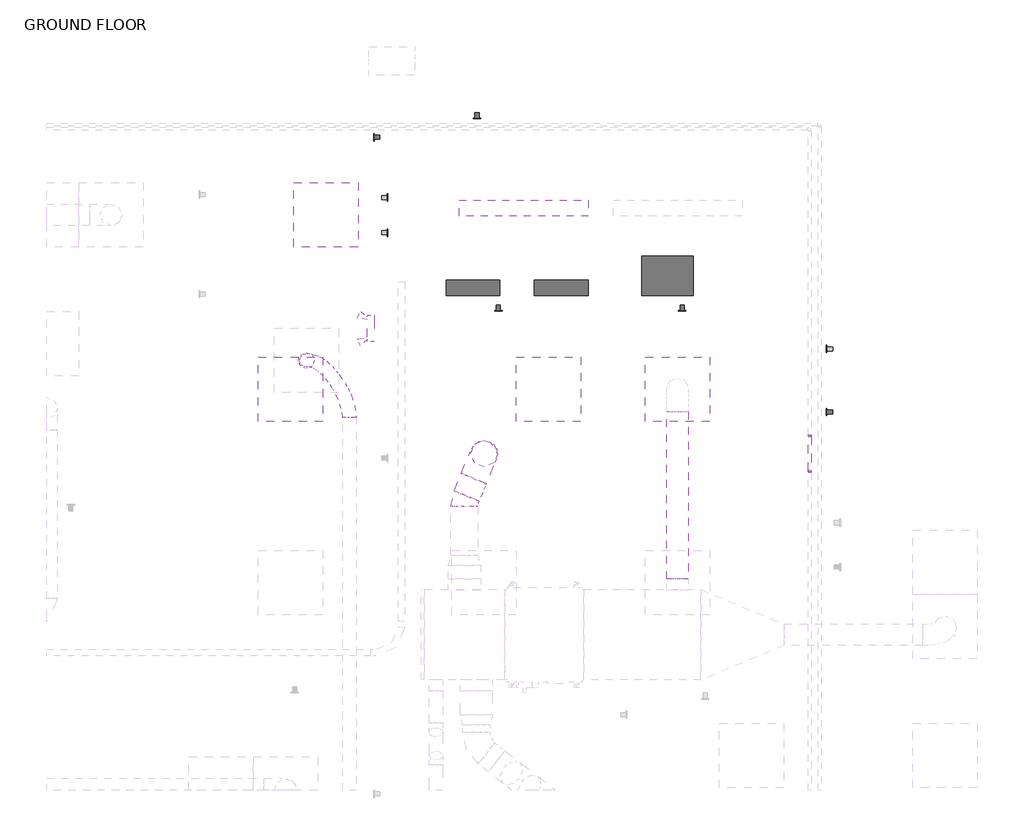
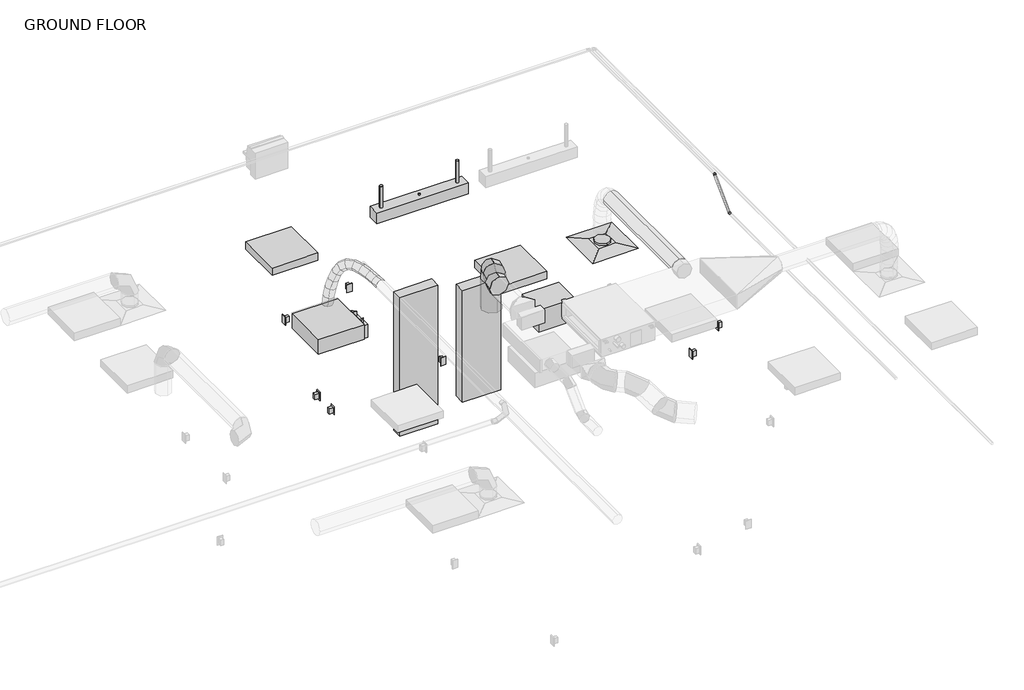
# One storey, part 21 of 22: 7 proxies, 5 light fixtures, 4 duct segments, 3 duct fittings, 2 electric appliances, 2 pipe fittings, 2 switching devices, 1 air terminal, 1 pipe segment.
"""IFC4 building model written with IfcOpenShell, lengths in millimetres."""

from ifc_helpers import new_model, si_unit, point, frame, frame_2d, origin, place, context, project, spatial, circle_curve, ellipse_curve, trimmed, segment, composite_curve, outline, extrude, transform, mapped, element, save
from ifc_brep_helpers import plane_surface, cylinder_surface, advanced_brep
from components import air_terminal_e9020785, proxy_15_kva_662d63cf, duplex_receptacle_countertop_10251bba, lighting_and_appliance_panelboard_208v_mcb_surface_400_a_1492eeec, lighting_and_appliance_panelboard_480v_mcb_surface_400_a_88b687c3, round_elbow_1_d_6fec3262, round_elbow_1_d_5b88d7e2, round_transition_angle_45_degree_fe5c3047, telephone_outlet_data_plain_18c24199, emergency_wall_light_120v_37438f40, suspended_fluorescent_strip_non_hosted_strip_light_1x4_120v_4ea4ccb3, troffer_corner_insert_2x2_3_lamp_emergency_29e3a813, troffer_corner_insert_2x2_3lamp_e67c7f8f, elbow_generic_standard_1964ee4a

model = new_model("IFC4")

# Units and contexts
model_context = context("Model", 3, world=origin())
ifc_project = project(units=[si_unit("LENGTHUNIT", "METRE", prefix="MILLI")], contexts=[model_context])

# Site, building, storey
site = spatial("IfcSite", under=ifc_project)
building = spatial("IfcBuilding", under=site)
storey = spatial("IfcBuildingStorey", under=building, Name="GROUND FLOOR", Elevation=30480.0)

# Air terminal
placement = place(None, origin())
air_terminal_shape = air_terminal_e9020785(model_context)
element("IfcAirTerminal", 1, ObjectType="Supply Diffuser - Rectangular Face Round Neck - Hosted : 24\"x24\" Face 8\" Neck - Hosted", at=placement, inside=storey, context=model_context, shape_type="MappedRepresentation", body=[
    mapped(air_terminal_shape, transform((12040.5545393, 5163.5445005, 33223.2), x_axis=(0.0, -1.0, 0.0), y_axis=(-1.0, 0.0, 0.0), z_axis=(0.0, 0.0, -1.0))),
])

# Proxies
proxy_15_kva_shape = proxy_15_kva_662d63cf(model_context)
element("IfcBuildingElementProxy", 2, Name="Dry Type Transformer - 480-208Y120 - NEMA Type 3R : 15 kVA", ObjectType="Dry Type Transformer - 480-208Y120 - NEMA Type 3R : 15 kVA", at=placement, inside=storey, context=model_context, shape_type="MappedRepresentation", body=[
    mapped(proxy_15_kva_shape, transform((11944.9930047, 6049.3695005, 31699.2), x_axis=(-1.0, 0.0, 0.0), y_axis=(0.0, 0.0, 1.0), z_axis=(0.0, 1.0, 0.0))),
])
duplex_receptacle_countertop_shape = duplex_receptacle_countertop_10251bba(model_context)
element("IfcBuildingElementProxy", 3, Name="Duplex Receptacle : Countertop", ObjectType="Duplex Receptacle : Countertop", at=placement, inside=storey, context=model_context, shape_type="MappedRepresentation", body=[
    mapped(duplex_receptacle_countertop_shape, transform((10347.0005995, 5906.4945005, 31699.2), x_axis=(1.0, 0.0, 0.0), y_axis=(0.0, 0.0, 1.0), z_axis=(0.0, -1.0, 0.0))),
])
element("IfcBuildingElementProxy", 4, Name="Duplex Receptacle : Countertop", ObjectType="Duplex Receptacle : Countertop", at=placement, inside=storey, context=model_context, shape_type="MappedRepresentation", body=[
    mapped(duplex_receptacle_countertop_shape, transform((12083.1234359, 5906.4945005, 31699.2), x_axis=(1.0, 0.0, 0.0), y_axis=(0.0, 0.0, 1.0), z_axis=(0.0, -1.0, 0.0))),
])
element("IfcBuildingElementProxy", 5, Name="Duplex Receptacle : Countertop", ObjectType="Duplex Receptacle : Countertop", at=placement, inside=storey, context=model_context, shape_type="MappedRepresentation", body=[
    mapped(duplex_receptacle_countertop_shape, transform((13450.2545393, 4948.4443724, 31699.2), x_axis=(0.0, -1.0, 0.0), y_axis=(0.0, 0.0, 1.0), z_axis=(-1.0, 0.0, 0.0))),
])
element("IfcBuildingElementProxy", 6, Name="Duplex Receptacle : Standard", ObjectType="Duplex Receptacle : Standard", at=placement, inside=storey, context=model_context, shape_type="MappedRepresentation", body=[
    mapped(duplex_receptacle_countertop_shape, transform((9297.3545393, 6976.0330864, 30937.2), x_axis=(0.0, 1.0, 0.0), y_axis=(0.0, 0.0, 1.0), z_axis=(1.0, 0.0, 0.0))),
])
lighting_and_appliance_panelboard_208v_mcb_surface_400_a_shape = lighting_and_appliance_panelboard_208v_mcb_surface_400_a_1492eeec(model_context)
element("IfcBuildingElementProxy", 7, Name="Lighting and Appliance Panelboard - 208V MCB - Surface : 400 A", ObjectType="Lighting and Appliance Panelboard - 208V MCB - Surface : 400 A", at=placement, inside=storey, context=model_context, shape_type="MappedRepresentation", body=[
    mapped(lighting_and_appliance_panelboard_208v_mcb_surface_400_a_shape, transform((10202.0902446, 6049.3695005, 31935.3056703), x_axis=(-1.0, 0.0, 0.0), y_axis=(0.0, 0.0, 1.0), z_axis=(0.0, 1.0, 0.0))),
])
lighting_and_appliance_panelboard_480v_mcb_surface_400_a_shape = lighting_and_appliance_panelboard_480v_mcb_surface_400_a_88b687c3(model_context)
element("IfcBuildingElementProxy", 8, Name="Lighting and Appliance Panelboard - 480V MCB - Surface : 400 A", ObjectType="Lighting and Appliance Panelboard - 480V MCB - Surface : 400 A", at=placement, inside=storey, context=model_context, shape_type="MappedRepresentation", body=[
    mapped(lighting_and_appliance_panelboard_480v_mcb_surface_400_a_shape, transform((11043.3905267, 6049.3695005, 32181.8), x_axis=(-1.0, 0.0, 0.0), y_axis=(0.0, 0.0, 1.0), z_axis=(0.0, 1.0, 0.0))),
])

# Duct fittings
round_elbow_1_d_shape = round_elbow_1_d_6fec3262(model_context)
element("IfcDuctFitting", 9, ObjectType="Round Elbow : 1 D", at=placement, inside=storey, context=model_context, shape_type="MappedRepresentation", body=[
    mapped(round_elbow_1_d_shape, transform((10211.7545393, 4553.9445005, 33992.34375), x_axis=(0.0, 0.0, 1.0), y_axis=(-0.3851088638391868, -0.9228711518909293, 0.0), z_axis=(0.9228711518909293, -0.3851088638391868, 0.0))),
])
round_elbow_1_d_2_shape = round_elbow_1_d_5b88d7e2(model_context)
element("IfcDuctFitting", 10, ObjectType="Round Elbow : 1 D", at=placement, inside=storey, context=model_context, shape_type="MappedRepresentation", body=[
    mapped(round_elbow_1_d_2_shape, transform((10025.6343566, 4107.927897, 33992.34375), x_axis=(-0.3851088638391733, -0.9228711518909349, 0.0), y_axis=(0.9228711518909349, -0.3851088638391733, 0.0), z_axis=(0.0, 0.0, 1.0))),
])
round_transition_angle_45_degree_shape = round_transition_angle_45_degree_fe5c3047(model_context)
element("IfcDuctFitting", 11, ObjectType="Round Transition - Angle : 45 Degree", at=placement, inside=storey, context=model_context, shape_type="MappedRepresentation", body=[
    mapped(round_transition_angle_45_degree_shape, transform((8532.1795393, 5435.0070005, 33277.175), x_axis=(0.0, 0.0, 1.0), y_axis=(-1.0, 0.0, 0.0), z_axis=(0.0, -1.0, 0.0))),
])

# Duct segments
element("IfcDuctSegment", 12, ObjectType="Flex - Round", at=placement, inside=storey, context=model_context, shape_type="AdvancedBrep", body=[
    advanced_brep(
    [(8875.0795393, 4896.3149962, 33877.25), (8938.5795393, 4896.3149962, 33813.75), (9002.0795393, 4896.3149962, 33877.25), (8938.5795393, 4896.3149962, 33940.75), (8875.0795393, 4900.8547311, 33877.25), (8938.5795393, 4910.0877861, 33813.75), (9002.0795393, 4909.5169222, 33877.25), (8938.5795393, 4900.2838673, 33940.75), (8498.0807082, 5381.4391023, 33307.8355122), (8478.6116411, 5469.1058316, 33307.8355122), (8566.2783703, 5488.5748987, 33307.8355122), (8585.7474375, 5400.9081695, 33307.8355122), (8863.8857275, 4982.0425527, 33889.9192219), (8924.7050592, 5010.7182805, 33829.453218), (8988.1741865, 5010.3713338, 33892.9881599), (8927.3548548, 4981.695606, 33953.4541638), (8833.8111138, 5071.1041338, 33919.2099071), (8889.698954, 5114.3837541, 33863.5468498), (8951.9191716, 5117.7352714, 33928.2981472), (8896.0313313, 5074.4556512, 33983.9612045), (8790.3755866, 5155.8451563, 33951.454483), (8843.3871918, 5204.7361993, 33897.9266129), (8901.2464031, 5216.59587, 33965.9153246), (8848.234798, 5167.704827, 34019.4431947), (8740.8976826, 5229.4503342, 33971.6182323), (8795.5614036, 5275.8836278, 33917.4170747), (8842.289142, 5304.3028933, 33989.9421998), (8787.6254209, 5257.8695997, 34044.1433574), (8692.9401256, 5286.2917627, 33966.2015223), (8756.497109, 5322.1843665, 33913.0048409), (8780.9199976, 5377.0403315, 33983.010678), (8717.3630142, 5341.1477278, 34036.2073593), (8648.8363887, 5327.176377, 33928.1852472), (8723.3182628, 5352.9414955, 33884.4055378), (8724.8233616, 5429.0424857, 33934.6568355), (8650.3414874, 5403.2773672, 33978.436545), (8607.4407626, 5355.753782, 33859.0017765), (8688.2568527, 5377.1460846, 33825.8082832), (8677.5734778, 5461.6613682, 33855.689291), (8596.7573877, 5440.2690657, 33888.8827843), (8570.661405, 5373.1745384, 33764.8754307), (8654.5815203, 5393.0966014, 33739.6258104), (8638.6693155, 5480.0885507, 33756.1251094), (8554.7492003, 5460.1664877, 33781.3747297), (8540.2848152, 5381.5183216, 33654.4016344), (8625.8982569, 5400.975265, 33635.3103157), (8607.7315024, 5488.5864897, 33643.6102521), (8522.1180606, 5469.1295464, 33662.7015708), (8517.4559318, 5383.612627, 33536.0689468), (8604.1400503, 5402.9713472, 33522.5274422), (8585.0222265, 5490.6698223, 33525.8975454), (8498.338108, 5471.3111021, 33539.43905), (8503.0715594, 5382.5248173, 33417.9387862), (8590.4843538, 5401.9386432, 33410.3814563), (8571.0518102, 5489.6133179, 33411.1669567), (8483.6390159, 5470.1994919, 33418.7242867), (8498.0807082, 5381.4391023, 33311.8810992), (8585.7474375, 5400.9081695, 33309.7199931), (8566.2783703, 5488.5748987, 33309.7293512), (8478.6116411, 5469.1058316, 33311.8904572)],
    [
        (0, 1, circle_curve(frame((8938.5795393, 4896.3149962, 33877.25), z_axis=(0.0, -1.0, 0.0), x_axis=(-1.0, 0.0, 0.0)), 63.5)),
        (1, 2, circle_curve(frame((8938.5795393, 4896.3149962, 33877.25), z_axis=(0.0, -1.0, 0.0), x_axis=(-1.0, 0.0, 0.0)), 63.5)),
        (2, 3, circle_curve(frame((8938.5795393, 4896.3149962, 33877.25), z_axis=(0.0, -1.0, 0.0), x_axis=(-1.0, 0.0, 0.0)), 63.5)),
        (3, 0, circle_curve(frame((8938.5795393, 4896.3149962, 33877.25), z_axis=(0.0, -1.0, 0.0), x_axis=(-1.0, 0.0, 0.0)), 63.5)),
        (0, 4),
        (4, 5, ellipse_curve(frame((8938.5795393, 4905.1858267, 33877.25), z_axis=(0.06784720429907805, -0.9947361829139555, -0.07678986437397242), x_axis=(-0.6586379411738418, -0.1024691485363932, 0.7454502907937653)), 63.8360211, 63.5)),
        (5, 1),
        (5, 6, ellipse_curve(frame((8938.5795393, 4905.1858267, 33877.25), z_axis=(0.06784720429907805, -0.9947361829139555, -0.07678986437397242), x_axis=(-0.6586379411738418, -0.1024691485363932, 0.7454502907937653)), 63.8360211, 63.5)),
        (6, 2),
        (6, 7, ellipse_curve(frame((8938.5795393, 4905.1858267, 33877.25), z_axis=(0.06784720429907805, -0.9947361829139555, -0.07678986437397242), x_axis=(-0.6586379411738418, -0.1024691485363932, 0.7454502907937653)), 63.8360211, 63.5)),
        (7, 3),
        (7, 4, ellipse_curve(frame((8938.5795393, 4905.1858267, 33877.25), z_axis=(0.06784720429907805, -0.9947361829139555, -0.07678986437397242), x_axis=(-0.6586379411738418, -0.1024691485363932, 0.7454502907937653)), 63.8360211, 63.5)),
        (8, 9, circle_curve(frame((8532.1795393, 5435.0070005, 33307.8355122), z_axis=(0.0, 0.0, -1.0), x_axis=(-0.5369894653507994, -0.8435889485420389, 0.0)), 63.5)),
        (9, 10, circle_curve(frame((8532.1795393, 5435.0070005, 33307.8355122), z_axis=(0.0, 0.0, -1.0), x_axis=(-0.5369894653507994, -0.8435889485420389, 0.0)), 63.5)),
        (10, 11, circle_curve(frame((8532.1795393, 5435.0070005, 33307.8355122), z_axis=(0.0, 0.0, -1.0), x_axis=(-0.5369894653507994, -0.8435889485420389, 0.0)), 63.5)),
        (11, 8, circle_curve(frame((8532.1795393, 5435.0070005, 33307.8355122), z_axis=(0.0, 0.0, -1.0), x_axis=(-0.5369894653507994, -0.8435889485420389, 0.0)), 63.5)),
        (4, 12),
        (12, 13, ellipse_curve(frame((8926.029957, 4996.2069433, 33891.4536909), z_axis=(0.22176007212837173, -0.9483804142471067, -0.22670919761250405), x_axis=(-0.7233012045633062, -0.31591314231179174, 0.6140311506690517)), 63.9455449, 63.5)),
        (13, 5),
        (13, 14, ellipse_curve(frame((8926.029957, 4996.2069433, 33891.4536909), z_axis=(0.22176007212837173, -0.9483804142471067, -0.22670919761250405), x_axis=(-0.7233012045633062, -0.31591314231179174, 0.6140311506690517)), 63.9455449, 63.5)),
        (14, 6),
        (14, 15, ellipse_curve(frame((8926.029957, 4996.2069433, 33891.4536909), z_axis=(0.22176007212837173, -0.9483804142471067, -0.22670919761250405), x_axis=(-0.7233012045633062, -0.31591314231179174, 0.6140311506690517)), 63.9455449, 63.5)),
        (15, 7),
        (15, 12, ellipse_curve(frame((8926.029957, 4996.2069433, 33891.4536909), z_axis=(0.22176007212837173, -0.9483804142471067, -0.22670919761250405), x_axis=(-0.7233012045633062, -0.31591314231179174, 0.6140311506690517)), 63.9455449, 63.5)),
        (12, 16),
        (16, 17, ellipse_curve(frame((8892.8651427, 5094.4197026, 33923.7540271), z_axis=(0.36968793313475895, -0.8759532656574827, -0.30989790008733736), x_axis=(-0.8870554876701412, -0.43198690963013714, 0.1628492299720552)), 63.6622762, 63.5)),
        (17, 13),
        (17, 18, ellipse_curve(frame((8892.8651427, 5094.4197026, 33923.7540271), z_axis=(0.36968793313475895, -0.8759532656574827, -0.30989790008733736), x_axis=(-0.8870554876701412, -0.43198690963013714, 0.1628492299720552)), 63.6622762, 63.5)),
        (18, 14),
        (18, 19, ellipse_curve(frame((8892.8651427, 5094.4197026, 33923.7540271), z_axis=(0.36968793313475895, -0.8759532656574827, -0.30989790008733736), x_axis=(-0.8870554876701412, -0.43198690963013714, 0.1628492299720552)), 63.6622762, 63.5)),
        (19, 15),
        (19, 16, ellipse_curve(frame((8892.8651427, 5094.4197026, 33923.7540271), z_axis=(0.36968793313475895, -0.8759532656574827, -0.30989790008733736), x_axis=(-0.8870554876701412, -0.43198690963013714, 0.1628492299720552)), 63.6622762, 63.5)),
        (16, 20),
        (20, 21, ellipse_curve(frame((8845.8109949, 5186.2205132, 33958.6849038), z_axis=(0.4894574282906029, -0.8285176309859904, -0.272010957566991), x_axis=(-0.7307496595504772, -0.21947974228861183, -0.6464004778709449)), 63.6871348, 63.5)),
        (21, 17),
        (21, 22, ellipse_curve(frame((8845.8109949, 5186.2205132, 33958.6849038), z_axis=(0.4894574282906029, -0.8285176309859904, -0.272010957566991), x_axis=(-0.7307496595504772, -0.21947974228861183, -0.6464004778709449)), 63.6871348, 63.5)),
        (22, 18),
        (22, 23, ellipse_curve(frame((8845.8109949, 5186.2205132, 33958.6849038), z_axis=(0.4894574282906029, -0.8285176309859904, -0.272010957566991), x_axis=(-0.7307496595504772, -0.21947974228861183, -0.6464004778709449)), 63.6871348, 63.5)),
        (23, 19),
        (23, 20, ellipse_curve(frame((8845.8109949, 5186.2205132, 33958.6849038), z_axis=(0.4894574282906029, -0.8285176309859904, -0.272010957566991), x_axis=(-0.7307496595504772, -0.21947974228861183, -0.6464004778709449)), 63.6871348, 63.5)),
        (20, 24),
        (24, 25, ellipse_curve(frame((8791.5934123, 5266.8766137, 33980.780216), z_axis=(0.6010322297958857, -0.7956541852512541, -0.07546307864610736), x_axis=(-0.31564562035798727, -0.1495663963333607, -0.9370153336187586)), 64.2980116, 63.5)),
        (25, 21),
        (25, 26, ellipse_curve(frame((8791.5934123, 5266.8766137, 33980.780216), z_axis=(0.6010322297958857, -0.7956541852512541, -0.07546307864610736), x_axis=(-0.31564562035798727, -0.1495663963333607, -0.9370153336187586)), 64.2980116, 63.5)),
        (26, 22),
        (26, 27, ellipse_curve(frame((8791.5934123, 5266.8766137, 33980.780216), z_axis=(0.6010322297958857, -0.7956541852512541, -0.07546307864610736), x_axis=(-0.31564562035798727, -0.1495663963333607, -0.9370153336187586)), 64.2980116, 63.5)),
        (27, 23),
        (27, 24, ellipse_curve(frame((8791.5934123, 5266.8766137, 33980.780216), z_axis=(0.6010322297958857, -0.7956541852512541, -0.07546307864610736), x_axis=(-0.31564562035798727, -0.1495663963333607, -0.9370153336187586)), 64.2980116, 63.5)),
        (24, 28),
        (28, 29, ellipse_curve(frame((8736.9300616, 5331.6660471, 33974.6061001), z_axis=(0.6521372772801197, -0.6902902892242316, 0.3133947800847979), x_axis=(0.04661097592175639, -0.37610301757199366, -0.9254047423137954)), 65.5729657, 63.5)),
        (29, 25),
        (29, 30, ellipse_curve(frame((8736.9300616, 5331.6660471, 33974.6061001), z_axis=(0.6521372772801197, -0.6902902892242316, 0.3133947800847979), x_axis=(0.04661097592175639, -0.37610301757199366, -0.9254047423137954)), 65.5729657, 63.5)),
        (30, 26),
        (30, 31, ellipse_curve(frame((8736.9300616, 5331.6660471, 33974.6061001), z_axis=(0.6521372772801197, -0.6902902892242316, 0.3133947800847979), x_axis=(0.04661097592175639, -0.37610301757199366, -0.9254047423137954)), 65.5729657, 63.5)),
        (31, 27),
        (31, 28, ellipse_curve(frame((8736.9300616, 5331.6660471, 33974.6061001), z_axis=(0.6521372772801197, -0.6902902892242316, 0.3133947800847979), x_axis=(0.04661097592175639, -0.37610301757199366, -0.9254047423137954)), 65.5729657, 63.5)),
        (28, 32),
        (32, 33, ellipse_curve(frame((8686.8298751, 5378.1094314, 33931.4210414), z_axis=(0.562693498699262, -0.46323884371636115, 0.6846793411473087), x_axis=(0.3490527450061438, -0.6176477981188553, -0.7047505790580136)), 64.739373, 63.5)),
        (33, 29),
        (33, 34, ellipse_curve(frame((8686.8298751, 5378.1094314, 33931.4210414), z_axis=(0.562693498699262, -0.46323884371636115, 0.6846793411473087), x_axis=(0.3490527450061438, -0.6176477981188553, -0.7047505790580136)), 64.739373, 63.5)),
        (34, 30),
        (34, 35, ellipse_curve(frame((8686.8298751, 5378.1094314, 33931.4210414), z_axis=(0.562693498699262, -0.46323884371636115, 0.6846793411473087), x_axis=(0.3490527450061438, -0.6176477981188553, -0.7047505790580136)), 64.739373, 63.5)),
        (35, 31),
        (35, 32, ellipse_curve(frame((8686.8298751, 5378.1094314, 33931.4210414), z_axis=(0.562693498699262, -0.46323884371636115, 0.6846793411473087), x_axis=(0.3490527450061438, -0.6176477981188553, -0.7047505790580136)), 64.739373, 63.5)),
        (32, 36),
        (36, 37, ellipse_curve(frame((8642.5071202, 5408.7075751, 33857.3455337), z_axis=(0.42420587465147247, -0.2537229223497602, 0.869295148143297), x_axis=(0.5363938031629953, -0.7030237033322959, -0.4669468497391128)), 63.9375529, 63.5)),
        (37, 33),
        (37, 38, ellipse_curve(frame((8642.5071202, 5408.7075751, 33857.3455337), z_axis=(0.42420587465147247, -0.2537229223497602, 0.869295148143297), x_axis=(0.5363938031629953, -0.7030237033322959, -0.4669468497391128)), 63.9375529, 63.5)),
        (38, 34),
        (38, 39, ellipse_curve(frame((8642.5071202, 5408.7075751, 33857.3455337), z_axis=(0.42420587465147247, -0.2537229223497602, 0.869295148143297), x_axis=(0.5363938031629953, -0.7030237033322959, -0.4669468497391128)), 63.9375529, 63.5)),
        (39, 35),
        (39, 36, ellipse_curve(frame((8642.5071202, 5408.7075751, 33857.3455337), z_axis=(0.42420587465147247, -0.2537229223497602, 0.869295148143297), x_axis=(0.5363938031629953, -0.7030237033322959, -0.4669468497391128)), 63.9375529, 63.5)),
        (36, 40),
        (40, 41, ellipse_curve(frame((8604.6653603, 5426.6315445, 33760.5002701), z_axis=(0.31233337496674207, -0.12156419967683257, 0.9421624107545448), x_axis=(0.662124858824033, -0.6833243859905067, -0.3076661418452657)), 63.6613778, 63.5)),
        (41, 37),
        (41, 42, ellipse_curve(frame((8604.6653603, 5426.6315445, 33760.5002701), z_axis=(0.31233337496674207, -0.12156419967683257, 0.9421624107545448), x_axis=(0.662124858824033, -0.6833243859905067, -0.3076661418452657)), 63.6613778, 63.5)),
        (42, 38),
        (42, 43, ellipse_curve(frame((8604.6653603, 5426.6315445, 33760.5002701), z_axis=(0.31233337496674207, -0.12156419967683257, 0.9421624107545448), x_axis=(0.662124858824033, -0.6833243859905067, -0.3076661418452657)), 63.6613778, 63.5)),
        (43, 39),
        (43, 40, ellipse_curve(frame((8604.6653603, 5426.6315445, 33760.5002701), z_axis=(0.31233337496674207, -0.12156419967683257, 0.9421624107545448), x_axis=(0.662124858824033, -0.6833243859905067, -0.3076661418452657)), 63.6613778, 63.5)),
        (40, 44),
        (44, 45, ellipse_curve(frame((8574.0081588, 5435.0524057, 33649.0059432), z_axis=(0.22717106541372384, -0.04505492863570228, 0.9728120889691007), x_axis=(0.7871206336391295, -0.5797108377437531, -0.21065719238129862)), 63.5722389, 63.5)),
        (45, 41),
        (45, 46, ellipse_curve(frame((8574.0081588, 5435.0524057, 33649.0059432), z_axis=(0.22717106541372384, -0.04505492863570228, 0.9728120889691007), x_axis=(0.7871206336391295, -0.5797108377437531, -0.21065719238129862)), 63.5722389, 63.5)),
        (46, 42),
        (46, 47, ellipse_curve(frame((8574.0081588, 5435.0524057, 33649.0059432), z_axis=(0.22717106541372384, -0.04505492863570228, 0.9728120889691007), x_axis=(0.7871206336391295, -0.5797108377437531, -0.21065719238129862)), 63.5722389, 63.5)),
        (47, 43),
        (47, 44, ellipse_curve(frame((8574.0081588, 5435.0524057, 33649.0059432), z_axis=(0.22717106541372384, -0.04505492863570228, 0.9728120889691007), x_axis=(0.7871206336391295, -0.5797108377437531, -0.21065719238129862)), 63.5722389, 63.5)),
        (44, 48),
        (48, 49, ellipse_curve(frame((8551.2390791, 5437.1412247, 33530.9832461), z_axis=(0.15524158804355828, -0.004120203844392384, 0.9878679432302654), x_axis=(0.9225643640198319, -0.356962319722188, -0.14646807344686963)), 63.5438436, 63.5)),
        (49, 45),
        (49, 50, ellipse_curve(frame((8551.2390791, 5437.1412247, 33530.9832461), z_axis=(0.15524158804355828, -0.004120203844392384, 0.9878679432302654), x_axis=(0.9225643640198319, -0.356962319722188, -0.14646807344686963)), 63.5438436, 63.5)),
        (50, 46),
        (50, 51, ellipse_curve(frame((8551.2390791, 5437.1412247, 33530.9832461), z_axis=(0.15524158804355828, -0.004120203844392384, 0.9878679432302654), x_axis=(0.9225643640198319, -0.356962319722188, -0.14646807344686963)), 63.5438436, 63.5)),
        (51, 47),
        (51, 48, ellipse_curve(frame((8551.2390791, 5437.1412247, 33530.9832461), z_axis=(0.15524158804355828, -0.004120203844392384, 0.9878679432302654), x_axis=(0.9225643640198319, -0.356962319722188, -0.14646807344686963)), 63.5438436, 63.5)),
        (48, 52),
        (52, 53, ellipse_curve(frame((8537.0616848, 5436.0690676, 33414.5528715), z_axis=(0.08399407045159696, 0.009689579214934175, 0.9964191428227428), x_axis=(0.9963711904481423, -0.014628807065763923, -0.0838477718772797)), 63.5436694, 63.5)),
        (53, 49),
        (53, 54, ellipse_curve(frame((8537.0616848, 5436.0690676, 33414.5528715), z_axis=(0.08399407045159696, 0.009689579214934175, 0.9964191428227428), x_axis=(0.9963711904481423, -0.014628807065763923, -0.0838477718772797)), 63.5436694, 63.5)),
        (54, 50),
        (54, 55, ellipse_curve(frame((8537.0616848, 5436.0690676, 33414.5528715), z_axis=(0.08399407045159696, 0.009689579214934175, 0.9964191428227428), x_axis=(0.9963711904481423, -0.014628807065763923, -0.0838477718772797)), 63.5436694, 63.5)),
        (55, 51),
        (55, 52, ellipse_curve(frame((8537.0616848, 5436.0690676, 33414.5528715), z_axis=(0.08399407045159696, 0.009689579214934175, 0.9964191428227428), x_axis=(0.9963711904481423, -0.014628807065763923, -0.0838477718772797)), 63.5436694, 63.5)),
        (52, 56),
        (56, 57, ellipse_curve(frame((8532.1795393, 5435.0070005, 33310.8052252), z_axis=(0.02350851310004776, 0.005114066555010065, 0.9997105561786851), x_axis=(0.9768631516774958, 0.21250783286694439, -0.024058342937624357)), 63.518385, 63.5)),
        (57, 53),
        (57, 58, ellipse_curve(frame((8532.1795393, 5435.0070005, 33310.8052252), z_axis=(0.02350851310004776, 0.005114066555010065, 0.9997105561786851), x_axis=(0.9768631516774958, 0.21250783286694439, -0.024058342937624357)), 63.518385, 63.5)),
        (58, 54),
        (58, 59, ellipse_curve(frame((8532.1795393, 5435.0070005, 33310.8052252), z_axis=(0.02350851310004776, 0.005114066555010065, 0.9997105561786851), x_axis=(0.9768631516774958, 0.21250783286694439, -0.024058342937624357)), 63.518385, 63.5)),
        (59, 55),
        (59, 56, ellipse_curve(frame((8532.1795393, 5435.0070005, 33310.8052252), z_axis=(0.02350851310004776, 0.005114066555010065, 0.9997105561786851), x_axis=(0.9768631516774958, 0.21250783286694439, -0.024058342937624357)), 63.518385, 63.5)),
        (56, 8),
        (11, 57),
        (10, 58),
        (9, 59),
    ],
    [
        plane_surface(frame((8875.0795393, 4896.3149962, 33877.25), z_axis=(0.0, -1.0, 0.0), x_axis=(0.0, 0.0, 1.0))),
        cylinder_surface(frame((8938.5795393, 4896.3149962, 33877.25), z_axis=(0.0, -1.0, 0.0), x_axis=(-1.0, 0.0, 0.0)), 63.5),
        plane_surface(frame((8532.1795393, 5371.5070005, 33307.8355122), z_axis=(0.0, 0.0, -1.0), x_axis=(-1.0, 0.0, 0.0))),
        cylinder_surface(frame((8938.5795393, 4905.1858267, 33877.25), z_axis=(0.1349801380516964, -0.9790001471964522, -0.1527713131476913), x_axis=(-0.9907935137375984, -0.1349801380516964, -0.010419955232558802)), 63.5),
        cylinder_surface(frame((8926.029957, 4996.2069433, 33891.4536909), z_axis=(0.30544974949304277, -0.9045448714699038, -0.2974878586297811), x_axis=(-0.9511678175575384, -0.304443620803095, -0.05092999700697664)), 63.5),
        cylinder_surface(frame((8892.8651427, 5094.4197026, 33923.7540271), z_axis=(0.4320414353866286, -0.8428960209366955, -0.3207280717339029), x_axis=(-0.9000223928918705, -0.4256296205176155, -0.09380361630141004)), 63.5),
        cylinder_surface(frame((8845.8109949, 5186.2205132, 33958.6849038), z_axis=(0.543997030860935, -0.8092702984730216, -0.22169531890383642), x_axis=(-0.8389719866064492, -0.5289712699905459, -0.1277317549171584)), 63.5),
        cylinder_surface(frame((8791.5934123, 5266.8766137, 33980.780216), z_axis=(0.6431484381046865, -0.7622881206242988, 0.07264232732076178), x_axis=(-0.7503414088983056, -0.6463015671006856, -0.13885983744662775)), 63.5),
        cylinder_surface(frame((8736.9300616, 5331.6660471, 33974.6061001), z_axis=(0.6198939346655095, -0.5746480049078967, 0.5343324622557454), x_axis=(-0.6372505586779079, -0.7660087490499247, -0.08451225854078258)), 63.5),
        cylinder_surface(frame((8686.8298751, 5378.1094314, 33931.4210414), z_axis=(0.4839486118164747, -0.33409315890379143, 0.808811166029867), x_axis=(-0.5679317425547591, -0.8230756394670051, -0.0001658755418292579)), 63.5),
        cylinder_surface(frame((8642.5071202, 5408.7075751, 33857.3455337), z_axis=(0.3586570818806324, -0.16988001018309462, 0.9178811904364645), x_axis=(-0.540586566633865, -0.8394311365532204, 0.055870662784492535)), 63.5),
        cylinder_surface(frame((8604.6653603, 5426.6315445, 33760.5002701), z_axis=(0.26442617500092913, -0.07263207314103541, 0.961666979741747), x_axis=(-0.531741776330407, -0.8428736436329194, 0.08255122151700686)), 63.5),
        cylinder_surface(frame((8574.0081588, 5435.0524057, 33649.0059432), z_axis=(0.18939967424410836, -0.017375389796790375, 0.9817463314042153), x_axis=(-0.5305996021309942, -0.8431001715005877, 0.08744234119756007)), 63.5),
        cylinder_surface(frame((8551.2390791, 5437.1412247, 33530.9832461), z_axis=(0.12086927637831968, 0.009140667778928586, 0.9926263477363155), x_axis=(-0.532923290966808, -0.8430384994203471, 0.07265572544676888)), 63.5),
        cylinder_surface(frame((8537.0616848, 5436.0690676, 33414.5528715), z_axis=(0.04700341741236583, 0.010225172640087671, 0.9988423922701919), x_axis=(-0.5361930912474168, -0.8434157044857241, 0.03386618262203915)), 63.5),
        cylinder_surface(frame((8532.1795393, 5435.0070005, 33310.8052252), z_axis=(0.0, 0.0, 1.0000000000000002), x_axis=(-0.5369894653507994, -0.8435889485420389, 0.0)), 63.5),
    ],
    [
        (0, [[1, 2, 3, 4]]),
        (1, [[-1, 5, 6, 7]]),
        (1, [[-2, -7, 8, 9]]),
        (1, [[-3, -9, 10, 11]]),
        (1, [[-4, -11, 12, -5]]),
        (2, [[13, 14, 15, 16]]),
        (3, [[-6, 17, 18, 19]]),
        (3, [[-8, -19, 20, 21]]),
        (3, [[-10, -21, 22, 23]]),
        (3, [[-12, -23, 24, -17]]),
        (4, [[-18, 25, 26, 27]]),
        (4, [[-20, -27, 28, 29]]),
        (4, [[-22, -29, 30, 31]]),
        (4, [[-24, -31, 32, -25]]),
        (5, [[-26, 33, 34, 35]]),
        (5, [[-28, -35, 36, 37]]),
        (5, [[-30, -37, 38, 39]]),
        (5, [[-32, -39, 40, -33]]),
        (6, [[-34, 41, 42, 43]]),
        (6, [[-36, -43, 44, 45]]),
        (6, [[-38, -45, 46, 47]]),
        (6, [[-40, -47, 48, -41]]),
        (7, [[-42, 49, 50, 51]]),
        (7, [[-44, -51, 52, 53]]),
        (7, [[-46, -53, 54, 55]]),
        (7, [[-48, -55, 56, -49]]),
        (8, [[-50, 57, 58, 59]]),
        (8, [[-52, -59, 60, 61]]),
        (8, [[-54, -61, 62, 63]]),
        (8, [[-56, -63, 64, -57]]),
        (9, [[-58, 65, 66, 67]]),
        (9, [[-60, -67, 68, 69]]),
        (9, [[-62, -69, 70, 71]]),
        (9, [[-64, -71, 72, -65]]),
        (10, [[-66, 73, 74, 75]]),
        (10, [[-68, -75, 76, 77]]),
        (10, [[-70, -77, 78, 79]]),
        (10, [[-72, -79, 80, -73]]),
        (11, [[-74, 81, 82, 83]]),
        (11, [[-76, -83, 84, 85]]),
        (11, [[-78, -85, 86, 87]]),
        (11, [[-80, -87, 88, -81]]),
        (12, [[-82, 89, 90, 91]]),
        (12, [[-84, -91, 92, 93]]),
        (12, [[-86, -93, 94, 95]]),
        (12, [[-88, -95, 96, -89]]),
        (13, [[-90, 97, 98, 99]]),
        (13, [[-92, -99, 100, 101]]),
        (13, [[-94, -101, 102, 103]]),
        (13, [[-96, -103, 104, -97]]),
        (14, [[-98, 105, 106, 107]]),
        (14, [[-100, -107, 108, 109]]),
        (14, [[-102, -109, 110, 111]]),
        (14, [[-104, -111, 112, -105]]),
        (15, [[-106, 113, -16, 114]]),
        (15, [[-108, -114, -15, 115]]),
        (15, [[-110, -115, -14, 116]]),
        (15, [[-112, -116, -13, -113]]),
    ],
),
])
element("IfcDuctSegment", 13, ObjectType="Taps / Short Radius", at=placement, inside=storey, context=model_context, shape_type="SweptSolid", body=[
    extrude(outline(composite_curve([segment(trimmed(circle_curve(frame_2d((0.0, -127.0)), 127.0), [point((-127.0, -127.0))], [point((0.0, 0.0))], False, "CARTESIAN"), True, "CONTINUOUS"), segment(trimmed(circle_curve(frame_2d((0.0, -127.0)), 127.0), [point((0.0, 0.0))], [point((127.0, -127.0))], False, "CARTESIAN"), True, "CONTINUOUS"), segment(trimmed(circle_curve(frame_2d((0.0, -127.0)), 127.0), [point((127.0, -127.0))], [point((0.0, -254.0))], False, "CARTESIAN"), True, "CONTINUOUS"), segment(trimmed(circle_curve(frame_2d((0.0, -127.0)), 127.0), [point((0.0, -254.0))], [point((-127.0, -127.0))], False, "CARTESIAN"), True, "CONTINUOUS")], self_intersect=False)), frame((10045.225084, 4154.8749265, 33865.34375), z_axis=(0.3851088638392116, 0.922871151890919, 0.0), x_axis=(0.922871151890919, -0.3851088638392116, 0.0)), (0.0, 0.0, 1.0), 178.4217668),
])
element("IfcDuctSegment", 14, ObjectType="Taps / Short Radius", at=placement, inside=storey, context=model_context, shape_type="SweptSolid", body=[
    extrude(outline(composite_curve([segment(trimmed(circle_curve(frame_2d((10211.7545393, 4553.9445005)), 127.0), [point((10084.7545393, 4553.9445005))], [point((10211.7545393, 4680.9445005))], False, "CARTESIAN"), True, "CONTINUOUS"), segment(trimmed(circle_curve(frame_2d((10211.7545393, 4553.9445005)), 127.0), [point((10211.7545393, 4680.9445005))], [point((10338.7545393, 4553.9445005))], False, "CARTESIAN"), True, "CONTINUOUS"), segment(trimmed(circle_curve(frame_2d((10211.7545393, 4553.9445005)), 127.0), [point((10338.7545393, 4553.9445005))], [point((10211.7545393, 4426.9445005))], False, "CARTESIAN"), True, "CONTINUOUS"), segment(trimmed(circle_curve(frame_2d((10211.7545393, 4553.9445005)), 127.0), [point((10211.7545393, 4426.9445005))], [point((10084.7545393, 4553.9445005))], False, "CARTESIAN"), True, "CONTINUOUS")], self_intersect=False)), frame((0.0, 0.0, 33324.8), z_axis=(0.0, 0.0, 1.0), x_axis=(1.0, 0.0, 0.0)), (0.0, 0.0, 1.0), 413.54375),
])
element("IfcDuctSegment", 15, ObjectType="Taps / Short Radius", at=placement, inside=storey, context=model_context, shape_type="SweptSolid", body=[
    extrude(outline(composite_curve([segment(trimmed(circle_curve(frame_2d((33978.85, 12040.5545393)), 101.6), [point((33978.85, 12142.1545393))], [point((34080.45, 12040.5545393))], False, "CARTESIAN"), True, "CONTINUOUS"), segment(trimmed(circle_curve(frame_2d((33978.85, 12040.5545393)), 101.6), [point((34080.45, 12040.5545393))], [point((33978.85, 11938.9545393))], False, "CARTESIAN"), True, "CONTINUOUS"), segment(trimmed(circle_curve(frame_2d((33978.85, 12040.5545393)), 101.6), [point((33978.85, 11938.9545393))], [point((33877.25, 12040.5545393))], False, "CARTESIAN"), True, "CONTINUOUS"), segment(trimmed(circle_curve(frame_2d((33978.85, 12040.5545393)), 101.6), [point((33877.25, 12040.5545393))], [point((33978.85, 12142.1545393))], False, "CARTESIAN"), True, "CONTINUOUS")], self_intersect=False)), frame((0.0, 3371.327897, 0.0), z_axis=(0.0, 1.0, 0.0), x_axis=(0.0, 0.0, 1.0)), (0.0, 0.0, 1.0), 1579.4916035),
])

# Electric appliances
telephone_outlet_data_plain_shape = telephone_outlet_data_plain_18c24199(model_context)
element("IfcElectricAppliance", 16, ObjectType="Telephone Outlet - Data : Plain", at=placement, inside=storey, context=model_context, shape_type="MappedRepresentation", body=[
    mapped(telephone_outlet_data_plain_shape, transform((13450.2545393, 4664.9254199, 30079.95), x_axis=(0.0, -1.0, 0.0), y_axis=(0.0, 0.0, 1.0), z_axis=(-1.0, 0.0, 0.0))),
])
element("IfcElectricAppliance", 17, ObjectType="Telephone Outlet - Data : Plain", at=placement, inside=storey, context=model_context, shape_type="MappedRepresentation", body=[
    mapped(telephone_outlet_data_plain_shape, transform((9297.3545393, 7522.4284863, 30079.95), x_axis=(0.0, 1.0, 0.0), y_axis=(0.0, 0.0, 1.0), z_axis=(1.0, 0.0, 0.0))),
])

# Light fixtures
emergency_wall_light_120v_shape = emergency_wall_light_120v_37438f40(model_context)
element("IfcLightFixture", 18, ObjectType="Emergency Wall Light : 120V", at=placement, inside=storey, context=model_context, shape_type="MappedRepresentation", body=[
    mapped(emergency_wall_light_120v_shape, transform((9173.5295393, 5739.0146039, 32715.2), x_axis=(0.0, -1.0, 0.0), y_axis=(0.0, 0.0, 1.0), z_axis=(-1.0, 0.0, 0.0))),
])
suspended_fluorescent_strip_non_hosted_strip_light_1x4_120v_shape = suspended_fluorescent_strip_non_hosted_strip_light_1x4_120v_4ea4ccb3(model_context)
element("IfcLightFixture", 19, ObjectType="Suspended Fluorescent Strip - Non-Hosted : Strip Light 1x4 - 120V Normal", at=placement, inside=storey, context=model_context, shape_type="MappedRepresentation", body=[
    mapped(suspended_fluorescent_strip_non_hosted_strip_light_1x4_120v_shape, transform((10586.0110218, 6874.6802316, 33223.2), x_axis=(1.0, 0.0, 0.0), y_axis=(0.0, 1.0, 0.0), z_axis=(0.0, 0.0, 1.0))),
])
troffer_corner_insert_2x2_3_lamp_emergency_shape = troffer_corner_insert_2x2_3_lamp_emergency_29e3a813(model_context)
element("IfcLightFixture", 20, ObjectType="Troffer Corner Insert : 2x2 3 Lamp Emergency", at=placement, inside=storey, context=model_context, shape_type="MappedRepresentation", body=[
    mapped(troffer_corner_insert_2x2_3_lamp_emergency_shape, transform((8382.9545393, 5163.5445005, 30784.8), x_axis=(1.0, 0.0, 0.0), y_axis=(0.0, 1.0, 0.0), z_axis=(0.0, 0.0, 1.0))),
])
troffer_corner_insert_2x2_3lamp_shape = troffer_corner_insert_2x2_3lamp_e67c7f8f(model_context)
element("IfcLightFixture", 21, ObjectType="Troffer Corner Insert : 2x2 3Lamp", at=placement, inside=storey, context=model_context, shape_type="MappedRepresentation", body=[
    mapped(troffer_corner_insert_2x2_3lamp_shape, transform((10821.3545393, 5163.5445005, 30784.8), x_axis=(1.0, 0.0, 0.0), y_axis=(0.0, 1.0, 0.0), z_axis=(0.0, 0.0, 1.0))),
])
element("IfcLightFixture", 22, ObjectType="Troffer Corner Insert : 2x2 3Lamp", at=placement, inside=storey, context=model_context, shape_type="MappedRepresentation", body=[
    mapped(troffer_corner_insert_2x2_3lamp_shape, transform((8716.3295393, 6811.3695005, 30784.8), x_axis=(1.0, 0.0, 0.0), y_axis=(0.0, 1.0, 0.0), z_axis=(0.0, 0.0, 1.0))),
])

# Pipe fittings
elbow_generic_standard_shape = elbow_generic_standard_1964ee4a(model_context)
element("IfcPipeFitting", 23, ObjectType="Elbow - Generic : Standard", at=placement, inside=storey, context=model_context, shape_type="MappedRepresentation", body=[
    mapped(elbow_generic_standard_shape, transform((13289.5512041, 4726.2310161, 34023.2999997), x_axis=(0.0, -1.0, 0.0), y_axis=(0.0, 0.0, -1.0), z_axis=(1.0, 0.0, 0.0))),
])
element("IfcPipeFitting", 24, ObjectType="Elbow - Generic : Standard", at=placement, inside=storey, context=model_context, shape_type="MappedRepresentation", body=[
    mapped(elbow_generic_standard_shape, transform((13289.5512041, 4383.3310166, 33680.4), x_axis=(0.0, -0.7071067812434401, -0.7071067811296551), y_axis=(0.0, -0.7071067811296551, 0.7071067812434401), z_axis=(-1.0, 0.0, 0.0))),
])

# Pipe segment
element("IfcPipeSegment", 25, ObjectType="Copper Tubing", at=placement, inside=storey, context=model_context, shape_type="SweptSolid", body=[
    extrude(outline(composite_curve([segment(trimmed(circle_curve(frame_2d((0.0, -14.2875)), 14.2875), [point((-14.2875, -14.2875))], [point((0.0, 0.0))], False, "CARTESIAN"), True, "CONTINUOUS"), segment(trimmed(circle_curve(frame_2d((0.0, -14.2875)), 14.2875), [point((0.0, 0.0))], [point((14.2875, -14.2875))], False, "CARTESIAN"), True, "CONTINUOUS"), segment(trimmed(circle_curve(frame_2d((0.0, -14.2875)), 14.2875), [point((14.2875, -14.2875))], [point((0.0, -28.575))], False, "CARTESIAN"), True, "CONTINUOUS"), segment(trimmed(circle_curve(frame_2d((0.0, -14.2875)), 14.2875), [point((0.0, -28.575))], [point((-14.2875, -14.2875))], False, "CARTESIAN"), True, "CONTINUOUS")], self_intersect=False)), frame((13289.5512041, 4399.4783886, 33676.3417957), z_axis=(0.0, 0.707106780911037, 0.7071067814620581), x_axis=(1.0, 0.0, 0.0)), (0.0, 0.0, 1.0), 467.8371652),
])

# Switching devices
element("IfcSwitchingDevice", 26, ObjectType="Lighting Switches : Single Pole", at=placement, inside=storey, context=model_context, shape_type="MappedRepresentation", body=[
    mapped(duplex_receptacle_countertop_shape, transform((9173.5295393, 7544.6878858, 31699.2), x_axis=(0.0, -1.0, 0.0), y_axis=(0.0, 0.0, 1.0), z_axis=(-1.0, 0.0, 0.0))),
])
element("IfcSwitchingDevice", 27, ObjectType="Lighting Switches : Single Pole", at=placement, inside=storey, context=model_context, shape_type="MappedRepresentation", body=[
    mapped(duplex_receptacle_countertop_shape, transform((10144.8795615, 7725.7695005, 31699.2), x_axis=(-1.0, 0.0, 0.0), y_axis=(0.0, 0.0, -1.0), z_axis=(0.0, -1.0, 0.0))),
])

save(model, "model.ifc")
